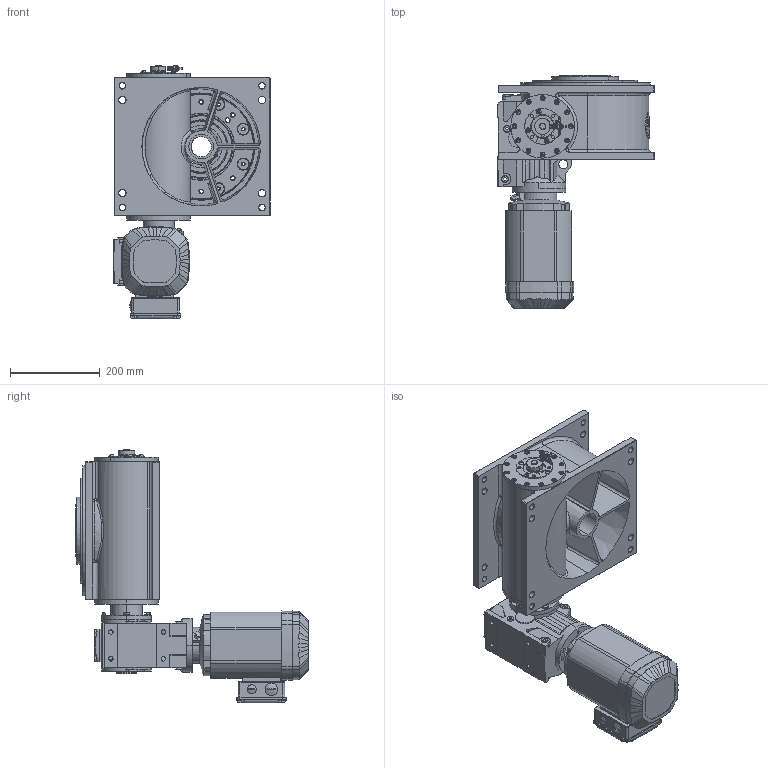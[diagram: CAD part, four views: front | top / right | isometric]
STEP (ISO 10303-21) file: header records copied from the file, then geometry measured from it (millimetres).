
FILE_DESCRIPTION (( 'STEP AP214' ), '1' );
FILE_NAME ('M235_SEW_KA37DRE80M4_E2_08.STEP', '2020-06-17T05:05:14', ( '' ), ( '' ), 'SwSTEP 2.0', 'SolidWorks 2020', '' );
FILE_SCHEMA (( 'AUTOMOTIVE_DESIGN' ));
Length unit declared in the file: millimetre
Products named in the file (1): M235_SEW_KA37DRE80M4_E2_08
Bounding box: 349 x 520.5 x 567.22 mm (x, y, z)
Surface area: 1084746.2 mm2 (no closed solid volume)
Topology: 0 solids, 86 shells, 1663 faces, 5045 edges, 3385 vertices
Faces by surface type: plane 643, cylinder 553, cone 253, bspline 125, torus 73, sphere 16
Entity records: 85467 total; most frequent: CARTESIAN_POINT 23051, DIRECTION 9201, ORIENTED_EDGE 8594, EDGE_CURVE 5010, VERTEX_POINT 3385, AXIS2_PLACEMENT_3D 3339, VECTOR 2523, LINE 2523
